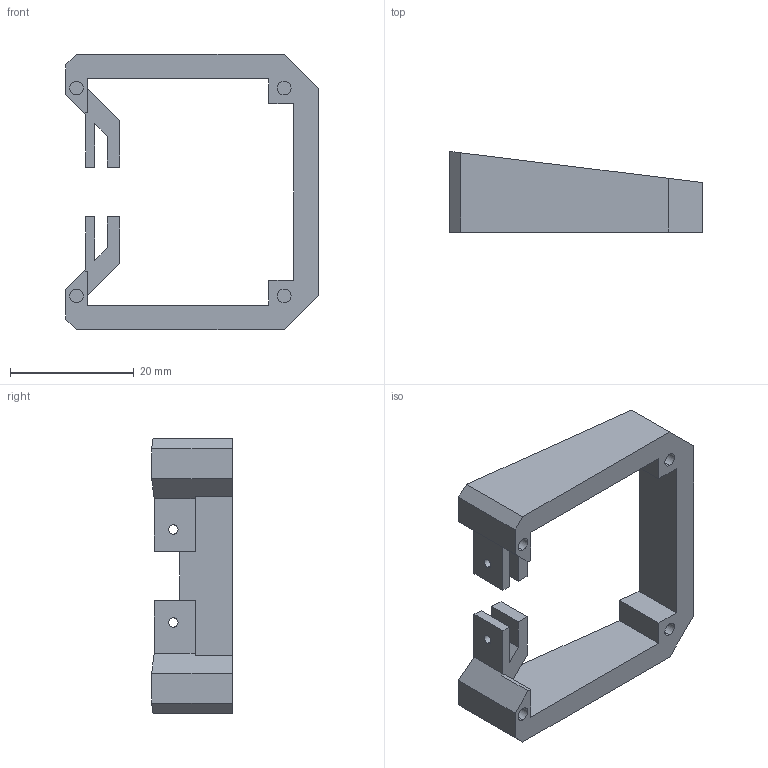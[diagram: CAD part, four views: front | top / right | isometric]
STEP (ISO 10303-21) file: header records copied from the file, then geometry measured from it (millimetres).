
FILE_DESCRIPTION (( 'STEP AP203' ), '1' );
FILE_NAME ('CAMTILT-ANALOG-MOUNT-R1.STEP', '2016-04-26T21:44:11', ( '' ), ( '' ), 'SwSTEP 2.0', 'SolidWorks 2014', '' );
FILE_SCHEMA (( 'CONFIG_CONTROL_DESIGN' ));
Length unit declared in the file: millimetre
Products named in the file (1): CAMTILT-ANALOG-MOUNT-R1
Bounding box: 40.75 x 13 x 44.5 mm (x, y, z)
Volume: 5428.4 mm3; surface area: 4412.1 mm2
Topology: 1 solids, 1 shells, 62 faces, 168 edges, 112 vertices
Faces by surface type: plane 46, cylinder 16
Entity records: 2037 total; most frequent: CARTESIAN_POINT 343, ORIENTED_EDGE 336, DIRECTION 326, EDGE_CURVE 168, LINE 136, VECTOR 136, VERTEX_POINT 112, AXIS2_PLACEMENT_3D 95
